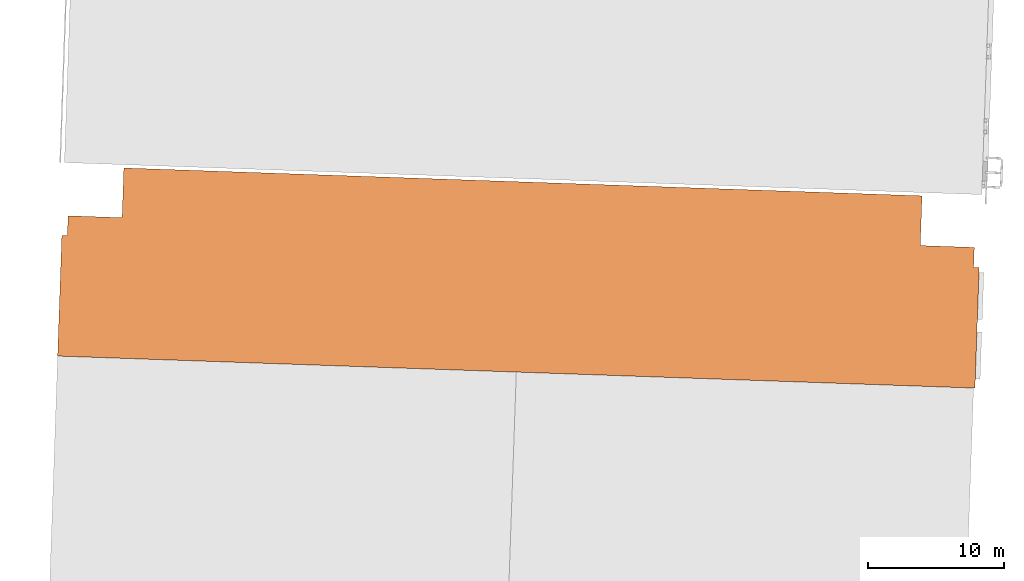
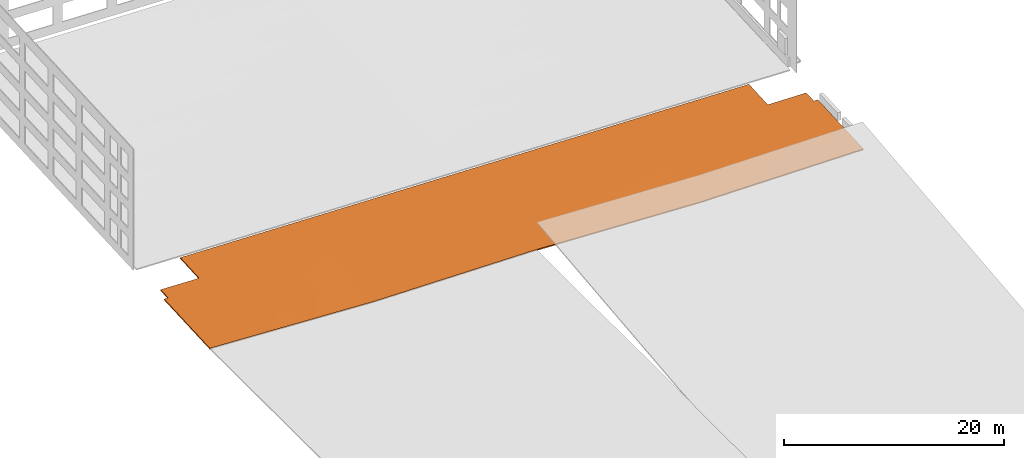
# One storey, part 7 of 7: 1 proxy.
"""IFC2X3 building model written with IfcOpenShell, lengths in feet."""

from ifc_helpers import new_model, entity, si_unit, converted_unit, derived_unit, direction, frame, origin, place, context, subcontext, project, spatial, faceted_brep, source, transform, mapped, material, type_object, type_shapes, element, save


model = new_model("IFC2X3")

# Units and contexts
model_context = context("Model", 3, precision=0.0001, world=origin(), true_north=direction((0.999390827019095, 0.0348994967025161)))
body_context = subcontext(model_context, "Body", "Model", "MODEL_VIEW")
ifc_project = project(units=[converted_unit("LENGTHUNIT", "FOOT", entity("IfcRatioMeasure", 0.3048), si_unit("LENGTHUNIT", "METRE"), dimensions=[1, 0, 0, 0, 0, 0, 0]), converted_unit("AREAUNIT", "SQUARE FOOT", entity("IfcRatioMeasure", 0.09290304), si_unit("AREAUNIT", "SQUARE_METRE"), dimensions=[2, 0, 0, 0, 0, 0, 0]), converted_unit("VOLUMEUNIT", "CUBIC FOOT", entity("IfcRatioMeasure", 0.028316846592), si_unit("VOLUMEUNIT", "CUBIC_METRE"), dimensions=[3, 0, 0, 0, 0, 0, 0]), converted_unit("PLANEANGLEUNIT", "DEGREE", entity("IfcRatioMeasure", 0.0174532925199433), si_unit("PLANEANGLEUNIT", "RADIAN"), dimensions=[0, 0, 0, 0, 0, 0, 0]), si_unit("MASSUNIT", "GRAM", prefix="KILO"), si_unit("TIMEUNIT", "SECOND"), si_unit("FREQUENCYUNIT", "HERTZ"), si_unit("THERMODYNAMICTEMPERATUREUNIT", "DEGREE_CELSIUS"), derived_unit("THERMALTRANSMITTANCEUNIT", [(si_unit("MASSUNIT", "GRAM", prefix="KILO"), 1), (si_unit("THERMODYNAMICTEMPERATUREUNIT", "KELVIN"), -1), (si_unit("TIMEUNIT", "SECOND"), -3)]), derived_unit("VOLUMETRICFLOWRATEUNIT", [(si_unit("LENGTHUNIT", "METRE"), 3), (si_unit("TIMEUNIT", "SECOND"), -1)]), si_unit("ELECTRICCURRENTUNIT", "AMPERE"), si_unit("ELECTRICVOLTAGEUNIT", "VOLT"), si_unit("POWERUNIT", "WATT"), si_unit("FORCEUNIT", "NEWTON"), si_unit("ILLUMINANCEUNIT", "LUX"), si_unit("LUMINOUSFLUXUNIT", "LUMEN"), si_unit("LUMINOUSINTENSITYUNIT", "CANDELA"), derived_unit("USERDEFINED", [(si_unit("MASSUNIT", "GRAM", prefix="KILO"), -1), (si_unit("LENGTHUNIT", "METRE"), -2), (si_unit("TIMEUNIT", "SECOND"), 3), (si_unit("LUMINOUSFLUXUNIT", "LUMEN"), 1)]), derived_unit("LINEARVELOCITYUNIT", [(si_unit("LENGTHUNIT", "METRE"), 1), (si_unit("TIMEUNIT", "SECOND"), -1)]), si_unit("PRESSUREUNIT", "PASCAL"), derived_unit("USERDEFINED", [(si_unit("LENGTHUNIT", "METRE"), -2), (si_unit("MASSUNIT", "GRAM", prefix="KILO"), 1), (si_unit("TIMEUNIT", "SECOND"), -2)])], contexts=[model_context])

# Site, building, storey
site_placement = place(None, frame((892.518771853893, 322.38689265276, 0.00393700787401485), z_axis=(0.0, 0.0, 1.0), x_axis=(0.0348994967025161, 0.999390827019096, 0.0)))
site = spatial("IfcSite", under=ifc_project, at=site_placement, Name="Default", CompositionType="ELEMENT")
building_placement = place(site_placement, origin())
building = spatial("IfcBuilding", under=site, at=building_placement, CompositionType="ELEMENT")
storey_placement = place(building_placement, frame((0.0, 0.0, 567.0)))
storey = spatial("IfcBuildingStorey", under=building, at=storey_placement, Name="Existing Garage - 2nd Level", CompositionType="ELEMENT", Elevation=567.0)

# Proxy
ifc_material = material(Name="Conc Slab")
building_element_proxy_type = type_object("IfcBuildingElementProxyType", Name="URMC Exist Garage A15-G18 2nd Floor", PredefinedType="NOTDEFINED", material=ifc_material)
shared_shape = source(origin(), body_context, "Body", "Brep", [
    faceted_brep([(45.7500000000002, -165.0, -0.416666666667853), (45.0, -165.0, -0.416666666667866), (42.0623199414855, -165.0, -0.493046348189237), (37.5, -165.0, -0.611666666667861), (32.9376800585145, -165.0, -0.730286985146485), (30.0, -165.0, -0.806666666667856), (21.6913902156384, -165.0, -1.02269052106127), (13.3827804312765, -165.0, -1.23871437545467), (0.0, -165.0, -1.58666666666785), (0.0, -165.0, -1.17000000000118), (13.3827804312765, -165.0, -0.822047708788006), (21.6913902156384, -165.0, -0.606023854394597), (30.0, -165.0, -0.390000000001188), (37.4999999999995, -165.0, -0.195000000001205), (45.0, -165.0, 0.0), (45.7500000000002, -165.0, 0.0), (29.0, -220.0, -0.416666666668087), (29.0, -220.0, 0.0), (20.6913898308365, -220.0, 0.0), (12.3827796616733, -220.0, 0.0), (0.0, -220.0, 0.0), (0.0, -220.0, -0.416666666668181), (12.3827796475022, -220.0, -0.416666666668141), (20.691389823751, -220.0, -0.416666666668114), (30.0, -208.845032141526, -0.0790988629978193), (16.5370843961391, -203.597118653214, -0.220703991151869), (29.2499999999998, -219.0, -0.00744545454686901), (29.4999999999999, -219.0, -0.00732727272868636), (29.75, -219.0, -0.0072090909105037), (30.0, -219.0, -0.00709090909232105), (30.4212962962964, -219.0, -0.0068917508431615), (30.8425925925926, -219.0, -0.00669259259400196), (30.0, -205.5, -0.102818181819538), (29.0, -219.0, -0.00756363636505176), (29.0, -219.75, -0.00189090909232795), (29.0, -219.5, -0.00378181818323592), (29.0, -219.25, -0.00567272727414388), (20.7948761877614, -191.005404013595, -0.331768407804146), (30.0, -198.690064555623, -0.151106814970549), (10.0378252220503, -178.448943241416, -0.686738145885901), (20.1935517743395, -178.613535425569, -0.485326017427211), (0.0, -209.845032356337, -0.21602385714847), (0.0, -199.690064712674, -0.432047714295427), (9.71466791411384, -192.499997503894, -0.458709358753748), (0.0, -185.309935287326, -0.737952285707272), (7.77446293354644, -204.767549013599, -0.268053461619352), (0.0, -175.154967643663, -0.953976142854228), (30.0, -192.0, -0.198545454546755), (30.0, -181.845032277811, -0.270553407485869), (30.0, -178.5, -0.294272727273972), (33.7916666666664, -211.777777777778, -0.0435653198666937), (33.7916666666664, -213.222222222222, -0.0359119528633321), (31.2638888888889, -219.0, -0.00649343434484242), (31.6851851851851, -219.0, -0.00629427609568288), (32.1064814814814, -219.0, -0.00609511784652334), (32.5277777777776, -219.0, -0.0058959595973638), (32.9490740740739, -219.0, -0.00569680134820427), (33.3703703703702, -219.0, -0.00549764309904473), (33.7916666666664, -219.0, -0.0052984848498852), (33.7916666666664, -217.555555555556, -0.0129518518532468), (33.7916666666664, -216.111111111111, -0.0206052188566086), (33.7916666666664, -214.666666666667, -0.0282585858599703), (38.4839962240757, -175.781774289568, -0.136205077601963), (34.4211543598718, -180.619101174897, -0.196940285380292), (38.1504626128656, -186.798467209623, -0.107505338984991), (45.0, -177.276017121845, 0.0), (34.313381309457, -191.629013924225, -0.143326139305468), (38.1504626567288, -196.459562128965, -0.0762230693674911), (33.7916666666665, -206.0, -0.0741787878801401), (35.0370370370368, -206.0, -0.0659367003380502), (33.7916666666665, -207.444444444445, -0.0665254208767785), (33.7916666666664, -210.333333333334, -0.0512186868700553), (33.7916666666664, -208.888888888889, -0.058872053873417), (45.0, -191.638008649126, 0.0), (43.7546296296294, -206.0, -0.00824208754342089), (45.0, -206.0, 0.0), (42.5092592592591, -206.0, -0.0164841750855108), (41.2638888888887, -206.0, -0.0247262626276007), (36.2824074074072, -206.0, -0.0576946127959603), (37.5277777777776, -206.0, -0.0494525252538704), (38.7731481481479, -206.0, -0.0412104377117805), (40.0185185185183, -206.0, -0.0329683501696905), (45.7500000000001, -206.0, 0.0), (45.7500000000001, -206.0, -0.416666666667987), (45.0, -206.0, -0.416666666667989), (45.0, -191.638008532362, -0.416666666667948), (45.0, -177.276017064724, -0.416666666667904), (33.7916666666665, -207.444444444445, -0.483192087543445), (33.7916666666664, -208.888888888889, -0.475538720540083), (33.7916666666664, -210.333333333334, -0.467885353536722), (33.7916666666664, -211.777777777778, -0.46023198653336), (30.0, -205.499999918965, -0.519484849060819), (33.7916666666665, -206.0, -0.490845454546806), (37.0103240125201, -176.044531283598, -0.582683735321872), (33.8430920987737, -184.011589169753, -0.606475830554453), (30.0, -178.500000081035, -0.710939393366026), (34.7918977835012, -194.653484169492, -0.538980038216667), (30.0, -198.690064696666, -0.567773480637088), (30.0, -192.0, -0.615212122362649), (40.0185185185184, -206.0, -0.449635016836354), (38.773148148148, -206.0, -0.457877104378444), (37.5277777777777, -206.0, -0.466119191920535), (36.2824074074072, -206.0, -0.474361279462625), (39.3958345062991, -196.218239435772, -0.479670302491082), (42.5092592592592, -206.0, -0.433150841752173), (41.2638888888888, -206.0, -0.441392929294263), (38.1504606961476, -186.798464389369, -0.524172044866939), (30.0, -181.845032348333, -0.687220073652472), (30.8425925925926, -219.0, -0.423359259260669), (43.7546296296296, -206.0, -0.424908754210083), (40.93720002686, -179.294944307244, -0.494844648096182), (35.0370370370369, -206.0, -0.482603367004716), (33.7916666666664, -214.666666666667, -0.444925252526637), (33.7916666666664, -216.111111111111, -0.437271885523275), (33.7916666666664, -217.555555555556, -0.429618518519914), (33.7916666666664, -219.0, -0.421965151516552), (33.3703703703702, -219.0, -0.422164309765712), (32.9490740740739, -219.0, -0.422363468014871), (32.5277777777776, -219.0, -0.422562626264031), (32.1064814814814, -219.0, -0.42276178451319), (31.6851851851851, -219.0, -0.42296094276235), (31.2638888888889, -219.0, -0.423160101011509), (33.7916666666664, -213.222222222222, -0.452578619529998), (30.4212962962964, -219.0, -0.423558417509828), (30.0, -219.0, -0.423757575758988), (29.75, -219.0, -0.423875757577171), (29.4999999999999, -219.0, -0.423993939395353), (29.2499999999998, -219.0, -0.424112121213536), (29.0, -219.0, -0.424230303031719), (30.0, -208.845032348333, -0.495765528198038), (0.0, -185.309935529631, -1.15461894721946), (9.71466872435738, -192.499996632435, -0.875376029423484), (0.0, -199.690064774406, -0.848714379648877), (10.0378253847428, -178.44894299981, -1.10340481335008), (29.0, -219.5, -0.420448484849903), (29.0, -219.75, -0.418557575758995), (29.0, -219.25, -0.422339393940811), (16.5370867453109, -203.597117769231, -0.637370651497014), (7.77446308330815, -204.767549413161, -0.684720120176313), (0.0, -209.845032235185, -0.632690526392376), (20.7948767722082, -191.005405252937, -0.748435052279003), (20.1935519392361, -178.613536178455, -0.901992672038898), (0.0, -175.154967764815, -1.37064280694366)], [[[0, 1, 2, 3, 4, 5, 6, 7, 8, 9, 10, 11, 12, 13, 14, 15]], [[16, 17, 18, 19, 20, 21, 22, 23]], [[18, 24, 25]], [[26, 27, 28, 29, 30, 31, 32, 24, 33]], [[18, 17, 34, 35, 36, 33]], [[37, 25, 38]], [[25, 19, 18]], [[39, 37, 40]], [[19, 41, 20]], [[42, 43, 44]], [[45, 43, 42]], [[33, 24, 18]], [[45, 42, 41]], [[25, 24, 32, 38]], [[39, 40, 10]], [[43, 39, 44]], [[39, 9, 46, 44]], [[37, 43, 25]], [[39, 43, 37]], [[37, 38, 47, 48]], [[12, 11, 10, 40]], [[40, 37, 48]], [[40, 48, 49, 12]], [[45, 19, 25]], [[19, 45, 41]], [[43, 45, 25]], [[9, 39, 10]], [[31, 50, 32]], [[51, 50, 31, 52, 53, 54, 55, 56, 57, 58, 59, 60, 61]], [[62, 63, 64]], [[64, 65, 62]], [[63, 12, 49, 48, 47]], [[64, 66, 67]], [[68, 66, 47]], [[66, 63, 47]], [[66, 68, 69]], [[70, 68, 32, 50, 71, 72]], [[14, 13, 62]], [[68, 47, 38, 32]], [[67, 73, 64]], [[14, 62, 65]], [[66, 69, 67]], [[74, 75, 73, 76]], [[77, 76, 67, 69, 78, 79, 80, 81]], [[73, 67, 76]], [[63, 66, 64]], [[13, 63, 62]], [[64, 73, 65]], [[12, 63, 13]], [[82, 15, 14, 65, 73, 75]], [[15, 82, 83, 0]], [[0, 83, 84, 85, 86, 1]], [[87, 88, 89, 90, 91, 92]], [[93, 94, 95]], [[96, 91, 97, 98]], [[99, 100, 101, 102, 103, 104, 105]], [[4, 3, 2, 93]], [[85, 103, 106]], [[94, 98, 107, 95]], [[90, 108, 91]], [[4, 93, 95]], [[84, 109, 104, 85]], [[93, 110, 106]], [[98, 94, 96]], [[96, 103, 102]], [[102, 111, 92, 96]], [[2, 86, 110]], [[104, 103, 85]], [[85, 106, 110]], [[103, 96, 106]], [[96, 92, 91]], [[112, 113, 114, 115, 116, 117, 118, 119, 120, 121, 108, 90, 122]], [[91, 108, 123, 124, 125, 126, 127, 128, 129]], [[85, 110, 86]], [[95, 5, 4]], [[94, 93, 106]], [[96, 94, 106]], [[2, 110, 93]], [[86, 2, 1]], [[130, 131, 132]], [[7, 133, 8]], [[128, 23, 129]], [[133, 131, 130]], [[134, 135, 16, 23, 128, 136]], [[137, 129, 23]], [[138, 139, 132]], [[137, 140, 97]], [[137, 97, 91, 129]], [[23, 22, 137]], [[22, 21, 139]], [[140, 137, 131]], [[141, 107, 140]], [[131, 138, 132]], [[141, 140, 133]], [[133, 130, 142, 8]], [[6, 5, 141, 7]], [[133, 140, 131]], [[140, 107, 98, 97]], [[141, 5, 95, 107]], [[7, 141, 133]], [[138, 131, 137]], [[139, 138, 22]], [[22, 138, 137]], [[84, 83, 82, 75, 74, 76, 77, 81, 80, 79, 78, 69, 68, 92, 111, 102, 101, 100, 99, 105, 104, 109]], [[71, 50, 51, 61, 60, 59, 58, 115, 114, 113, 112, 122, 90, 89, 88, 87, 92, 68, 70, 72]], [[117, 116, 115, 58, 57, 56, 55, 54, 53, 52, 31, 30, 29, 28, 27, 26, 33, 128, 127, 126, 125, 124, 123, 108, 121, 120, 119, 118]], [[134, 136, 128, 33, 36, 35, 34, 17, 16, 135]], [[9, 8, 142, 130, 132, 139, 21, 20, 41, 42, 44, 46]]]),
    faceted_brep([(0.0, -55.0, -1.17000000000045), (0.0, -55.0, -1.58666666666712), (13.3827804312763, -55.0, -1.23871437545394), (21.6913902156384, -55.0, -1.02269052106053), (30.0, -55.0, -0.806666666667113), (37.5000000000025, -55.0, -0.611666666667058), (45.0, -55.0, -0.416666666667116), (45.7500000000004, -55.0, -0.416666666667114), (45.7500000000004, -55.0, 0.0), (45.0, -55.0, 0.0), (42.0623199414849, -55.0, -0.0763796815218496), (37.4999999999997, -55.0, -0.195000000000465), (32.9376800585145, -55.0, -0.313620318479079), (30.0, -55.0, -0.390000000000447), (21.6913902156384, -55.0, -0.60602385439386), (13.3827804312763, -55.0, -0.822047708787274), (0.0, 0.0, 0.0), (12.3827796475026, 0.0, 0.0), (20.6913898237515, 0.0, 0.0), (29.0, 0.0, 0.0), (29.0, 0.0, -0.416666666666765), (20.6913898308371, 0.0, -0.416666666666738), (12.3827796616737, 0.0, -0.416666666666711), (0.0, 0.0, -0.416666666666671), (45.7500000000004, -14.0, -0.416666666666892), (45.0, -42.7239827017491, -0.41666666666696), (45.0, -28.3619913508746, -0.416666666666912), (45.0, -14.0, -0.416666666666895), (45.7500000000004, -14.0, 0.0), (45.0, -14.0, 0.0), (45.0, -28.3619914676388, 0.0), (45.0, -42.7239829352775, 0.0), (33.7916666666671, -12.5555555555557, -0.0665254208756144), (33.7916666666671, -11.1111111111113, -0.0588720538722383), (33.7916666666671, -9.66666666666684, -0.0512186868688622), (33.7916666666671, -8.22222222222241, -0.0435653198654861), (30.0, -14.5000000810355, -0.102818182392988), (33.7916666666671, -14.0, -0.0741787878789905), (37.0103240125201, -43.9554687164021, -0.166017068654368), (33.843092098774, -35.9884108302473, -0.189809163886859), (30.0, -41.499999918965, -0.294272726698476), (34.7918977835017, -25.3465158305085, -0.122313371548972), (30.0, -21.3099353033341, -0.15110681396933), (30.0, -28.0000001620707, -0.198545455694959), (40.0185185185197, -14.0, -0.0329683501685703), (38.7731481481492, -14.0, -0.0412104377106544), (37.5277777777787, -14.0, -0.0494525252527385), (36.2824074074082, -14.0, -0.0576946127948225), (39.3958345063, -23.7817605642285, -0.0630036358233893), (42.5092592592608, -14.0, -0.0164841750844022), (41.2638888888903, -14.0, -0.0247262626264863), (38.1504606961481, -33.2015356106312, -0.107505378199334), (30.0, -38.1549676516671, -0.270553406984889), (30.8425925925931, -1.0, -0.00669259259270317), (43.7546296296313, -14.0, -0.00824208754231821), (40.9372000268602, -40.7050556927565, -0.0781779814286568), (35.0370370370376, -14.0, -0.0659367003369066), (33.7916666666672, -5.33333333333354, -0.0282585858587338), (33.7916666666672, -3.88888888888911, -0.0206052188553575), (33.7916666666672, -2.44444444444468, -0.0129518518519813), (33.7916666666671, -1.0, -0.00529848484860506), (33.3703703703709, -1.0, -0.00549764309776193), (32.9490740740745, -1.0, -0.00569680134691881), (32.5277777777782, -1.0, -0.00589595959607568), (32.1064814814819, -1.0, -0.00609511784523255), (31.6851851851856, -1.0, -0.00629427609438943), (31.2638888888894, -1.0, -0.0064934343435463), (33.7916666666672, -6.77777777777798, -0.0359119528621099), (30.4212962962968, -1.0, -0.00689175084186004), (30.0, -1.0, -0.00709090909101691), (29.7500000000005, -1.0, -0.0072090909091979), (29.5000000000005, -1.0, -0.00732727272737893), (29.2500000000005, -1.0, -0.00744545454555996), (29.0, -1.0, -0.00756363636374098), (30.0, -11.1549676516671, -0.0790988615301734), (0.0, -34.6900644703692, -0.737952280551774), (9.71466872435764, -27.5000033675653, -0.458709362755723), (0.0, -20.3099352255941, -0.432047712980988), (10.0378253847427, -41.5510570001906, -0.686738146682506), (29.0, -0.50000000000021, -0.00378181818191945), (29.0, -0.250000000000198, -0.00189090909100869), (29.0, -0.750000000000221, -0.00567272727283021), (16.5370867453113, -16.4028822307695, -0.220703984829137), (7.77446308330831, -15.2324505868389, -0.268053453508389), (0.0, -10.1549677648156, -0.216023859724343), (20.7948767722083, -28.9945947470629, -0.331768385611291), (20.1935519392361, -41.3864638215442, -0.485326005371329), (0.0, -44.8450322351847, -0.953976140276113), (0.0, -10.1549676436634, -0.632690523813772), (0.0, -20.3099352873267, -0.848714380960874), (0.0, -34.6900647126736, -1.15461895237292), (0.0, -44.8450323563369, -1.37064280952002), (30.0, -11.1549678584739, -0.495765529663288), (16.5370843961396, -16.4028813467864, -0.637370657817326), (29.2500000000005, -1.0, -0.424112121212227), (29.5000000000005, -1.0, -0.423993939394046), (29.7500000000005, -1.0, -0.423875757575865), (30.0, -1.0, -0.423757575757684), (30.4212962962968, -1.0, -0.423558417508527), (30.8425925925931, -1.0, -0.42335925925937), (30.0, -14.5000000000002, -0.519484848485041), (29.0, -1.0, -0.424230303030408), (29.0, -0.250000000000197, -0.418557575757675), (29.0, -0.500000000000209, -0.420448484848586), (29.0, -0.750000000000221, -0.422339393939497), (20.7948761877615, -28.9945959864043, -0.748435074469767), (30.0, -21.3099354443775, -0.567773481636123), (10.0378252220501, -41.5510567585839, -1.10340481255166), (20.1935517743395, -41.3864645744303, -0.901992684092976), (9.7146679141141, -27.5000024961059, -0.87537602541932), (7.77446293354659, -15.2324509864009, -0.684720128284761), (30.0, -28.0, -0.615212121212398), (30.0, -38.1549677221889, -0.687220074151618), (30.0, -41.5000000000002, -0.710939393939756), (33.7916666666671, -8.22222222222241, -0.460231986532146), (33.7916666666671, -6.77777777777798, -0.452578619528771), (31.2638888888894, -1.0, -0.423160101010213), (31.6851851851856, -1.0, -0.422960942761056), (32.1064814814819, -1.0, -0.422761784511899), (32.5277777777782, -1.0, -0.422562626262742), (32.9490740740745, -1.0, -0.422363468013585), (33.3703703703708, -1.0, -0.422164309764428), (33.7916666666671, -1.0, -0.421965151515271), (33.7916666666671, -2.44444444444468, -0.429618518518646), (33.7916666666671, -3.88888888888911, -0.437271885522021), (33.7916666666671, -5.33333333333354, -0.444925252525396), (38.4839962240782, -44.2182257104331, -0.552871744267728), (34.4211543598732, -39.3808988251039, -0.613606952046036), (38.1504626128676, -33.2015327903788, -0.524172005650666), (34.3133813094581, -28.3709860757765, -0.559992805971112), (38.1504626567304, -23.5404378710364, -0.492889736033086), (33.7916666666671, -14.0, -0.490845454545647), (35.0370370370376, -14.0, -0.48260336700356), (33.7916666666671, -12.5555555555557, -0.483192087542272), (33.7916666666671, -9.66666666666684, -0.467885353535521), (33.7916666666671, -11.1111111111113, -0.475538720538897), (43.754629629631, -14.0, -0.424908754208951), (42.5092592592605, -14.0, -0.433150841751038), (41.2638888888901, -14.0, -0.441392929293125), (36.2824074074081, -14.0, -0.474361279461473), (37.5277777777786, -14.0, -0.466119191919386), (38.7731481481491, -14.0, -0.457877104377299), (40.0185185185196, -14.0, -0.449635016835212)], [[[0, 1, 2, 3, 4, 5, 6, 7, 8, 9, 10, 11, 12, 13, 14, 15]], [[16, 17, 18, 19, 20, 21, 22, 23]], [[24, 7, 6, 25, 26, 27]], [[7, 24, 28, 8]], [[8, 28, 29, 30, 31, 9]], [[32, 33, 34, 35, 36, 37]], [[38, 39, 40]], [[41, 36, 42, 43]], [[44, 45, 46, 47, 48, 49, 50]], [[12, 11, 10, 38]], [[30, 48, 51]], [[39, 43, 52, 40]], [[35, 53, 36]], [[12, 38, 40]], [[29, 54, 49, 30]], [[38, 55, 51]], [[43, 39, 41]], [[41, 48, 47]], [[47, 56, 37, 41]], [[10, 31, 55]], [[49, 48, 30]], [[30, 51, 55]], [[48, 41, 51]], [[41, 37, 36]], [[57, 58, 59, 60, 61, 62, 63, 64, 65, 66, 53, 35, 67]], [[36, 53, 68, 69, 70, 71, 72, 73, 74]], [[30, 55, 31]], [[40, 13, 12]], [[39, 38, 51]], [[41, 39, 51]], [[10, 55, 38]], [[31, 10, 9]], [[75, 76, 77]], [[15, 78, 0]], [[73, 18, 74]], [[78, 76, 75]], [[79, 80, 19, 18, 73, 81]], [[82, 74, 18]], [[83, 84, 77]], [[82, 85, 42]], [[82, 42, 36, 74]], [[18, 17, 82]], [[17, 16, 84]], [[85, 82, 76]], [[86, 52, 85]], [[76, 83, 77]], [[86, 85, 78]], [[78, 75, 87, 0]], [[14, 13, 86, 15]], [[78, 85, 76]], [[85, 52, 43, 42]], [[86, 13, 40, 52]], [[15, 86, 78]], [[83, 76, 82]], [[84, 83, 17]], [[17, 83, 82]], [[23, 88, 89, 90, 91, 1, 0, 87, 75, 77, 84, 16]], [[21, 92, 93]], [[94, 95, 96, 97, 98, 99, 100, 92, 101]], [[21, 20, 102, 103, 104, 101]], [[105, 93, 106]], [[93, 22, 21]], [[107, 105, 108]], [[22, 88, 23]], [[89, 109, 90]], [[110, 109, 89]], [[101, 92, 21]], [[110, 89, 88]], [[93, 92, 100, 106]], [[107, 108, 2]], [[109, 107, 90]], [[107, 1, 91, 90]], [[105, 109, 93]], [[107, 109, 105]], [[105, 106, 111, 112]], [[4, 3, 2, 108]], [[108, 105, 112]], [[108, 112, 113, 4]], [[110, 22, 93]], [[22, 110, 88]], [[109, 110, 93]], [[1, 107, 2]], [[99, 114, 100]], [[115, 114, 99, 116, 117, 118, 119, 120, 121, 122, 123, 124, 125]], [[126, 127, 128]], [[128, 25, 126]], [[127, 4, 113, 112, 111]], [[128, 129, 130]], [[131, 129, 111]], [[129, 127, 111]], [[129, 131, 132]], [[133, 131, 100, 114, 134, 135]], [[6, 5, 126]], [[131, 111, 106, 100]], [[130, 26, 128]], [[6, 126, 25]], [[129, 132, 130]], [[136, 27, 26, 137]], [[138, 137, 130, 132, 139, 140, 141, 142]], [[26, 130, 137]], [[127, 129, 128]], [[5, 127, 126]], [[128, 26, 25]], [[4, 127, 5]], [[44, 50, 49, 54, 29, 28, 24, 27, 136, 137, 138, 142, 141, 140, 139, 132, 131, 37, 56, 47, 46, 45]], [[59, 58, 57, 67, 35, 34, 33, 32, 37, 131, 133, 135, 134, 114, 115, 125, 124, 123, 122, 60]], [[102, 20, 19, 80, 79, 81, 73, 101, 104, 103]], [[53, 66, 65, 64, 63, 62, 61, 60, 122, 121, 120, 119, 118, 117, 116, 99, 98, 97, 96, 95, 94, 101, 73, 72, 71, 70, 69, 68]]]),
    faceted_brep([(29.0, -220.0, 0.0), (0.0, -220.0, 0.0), (0.0, -220.333333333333, 0.0), (29.0, -220.333333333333, 0.0), (29.0, -220.0, -0.416666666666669), (29.0, -220.333333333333, -0.416666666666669), (0.0, -220.333333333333, -0.416666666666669), (0.0, -220.0, -0.416666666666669)], [[[0, 1, 2, 3]], [[4, 5, 6, 7]], [[0, 3, 5, 4]], [[3, 2, 6, 5]], [[2, 1, 7, 6]], [[1, 0, 4, 7]]]),
    faceted_brep([(0.0, -165.0, -1.17000000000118), (0.0, -165.0, -1.58666666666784), (9.46064134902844, -165.0, -1.34068999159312), (18.9212826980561, -165.0, -1.0947133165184), (30.0, -165.0, -0.806666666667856), (37.1659738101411, -165.0, -0.620351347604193), (41.0829869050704, -165.0, -0.51850900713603), (45.0, -165.0, -0.416666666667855), (45.7500000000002, -165.0, -0.416666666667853), (45.7500000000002, -165.0, 0.0), (45.0, -165.0, 0.0), (37.8340261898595, -165.0, -0.186315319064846), (33.9170130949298, -165.0, -0.288157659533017), (30.0, -165.0, -0.390000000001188), (20.5393586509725, -165.0, -0.635976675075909), (11.0787173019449, -165.0, -0.881953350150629), (30.0, -110.0, -0.526666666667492), (18.921282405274, -110.0, -0.607910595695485), (9.46064120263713, -110.0, -0.677288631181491), (0.0, -110.0, -0.746666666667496), (0.0, -110.0, -0.330000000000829), (11.0787175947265, -110.0, -0.248756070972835), (20.5393587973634, -110.0, -0.17937803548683), (30.0, -110.0, -0.110000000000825), (37.16597356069, -110.0, -0.0574495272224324), (41.0829867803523, -110.0, -0.0287247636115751), (45.0, -110.0, 0.0), (45.7500000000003, -110.0, 0.0), (45.7500000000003, -110.0, -0.41666666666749), (45.0, -110.0, -0.41666666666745), (37.8340264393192, -110.0, -0.469217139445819), (33.9170132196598, -110.0, -0.497941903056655), (0.0, -137.5, -1.16666666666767), (30.0, -130.310981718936, -0.630068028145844), (15.0000015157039, -137.500002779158, -0.916666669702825), (30.0, -144.689018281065, -0.703265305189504), (30.0, -136.275236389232, -0.660431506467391), (30.0, -150.637618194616, -0.733549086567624), (35.238920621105, -129.41370506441, -0.552562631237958), (40.1294691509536, -126.164082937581, -0.479103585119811), (45.0, -124.36238162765, -0.416666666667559), (45.0, -138.724762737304, -0.416666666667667), (39.1244807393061, -144.011721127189, -0.527577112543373), (33.9855774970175, -149.287335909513, -0.644304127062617), (45.0, -136.275236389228, 0.0), (45.0, -150.637618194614, 0.0), (39.7610793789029, -129.413705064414, -0.0729374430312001), (34.8705308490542, -126.164082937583, -0.129852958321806), (30.0, -124.362381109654, -0.18311757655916), (30.0, -137.5, -0.250000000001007), (30.0, -138.724762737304, -0.256235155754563), (35.8755192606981, -144.011721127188, -0.172240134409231), (41.0144225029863, -149.287335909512, -0.0823707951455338), (0.0, -130.310981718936, -0.640204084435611), (14.9999984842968, -137.500002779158, -0.500000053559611), (0.0, -144.689018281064, -0.859795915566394)], [[[0, 1, 2, 3, 4, 5, 6, 7, 8, 9, 10, 11, 12, 13, 14, 15]], [[16, 17, 18, 19, 20, 21, 22, 23, 24, 25, 26, 27, 28, 29, 30, 31]], [[2, 1, 32]], [[17, 16, 33]], [[34, 35, 3]], [[34, 17, 33]], [[34, 33, 36, 35]], [[32, 18, 34]], [[3, 35, 37, 4]], [[2, 32, 34]], [[34, 3, 2]], [[34, 18, 17]], [[32, 19, 18]], [[38, 16, 31, 30]], [[39, 29, 40, 41]], [[5, 42, 6]], [[5, 43, 42]], [[43, 4, 37, 35, 36]], [[38, 39, 42]], [[41, 6, 42]], [[41, 7, 6]], [[42, 43, 38]], [[4, 43, 5]], [[38, 43, 36]], [[39, 38, 30]], [[29, 39, 30]], [[41, 42, 39]], [[38, 36, 33, 16]], [[8, 7, 41, 40, 29, 28]], [[8, 28, 27, 9]], [[9, 27, 26, 44, 45, 10]], [[46, 26, 25, 24]], [[47, 23, 48, 49, 50]], [[11, 51, 12]], [[11, 52, 51]], [[52, 10, 45, 44]], [[46, 47, 51]], [[50, 12, 51]], [[50, 49, 14, 13, 12]], [[51, 52, 46]], [[10, 52, 11]], [[46, 52, 44]], [[47, 46, 24]], [[23, 47, 24]], [[50, 51, 47]], [[26, 46, 44]], [[21, 20, 53]], [[54, 55, 15]], [[54, 21, 53]], [[55, 54, 53]], [[49, 22, 54]], [[55, 0, 15]], [[14, 49, 54]], [[54, 15, 14]], [[54, 22, 21]], [[22, 49, 48, 23]], [[19, 32, 1, 0, 55, 53, 20]]]),
    faceted_brep([(29.0, 0.0, 0.0), (29.0, 0.3333333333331, 0.0), (0.0, 0.333333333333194, 0.0), (0.0, 0.0, 0.0), (29.0, 0.0, -0.416666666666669), (0.0, 0.0, -0.416666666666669), (0.0, 0.333333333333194, -0.416666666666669), (29.0, 0.3333333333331, -0.416666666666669)], [[[0, 1, 2, 3]], [[4, 5, 6, 7]], [[1, 0, 4, 7]], [[2, 1, 7, 6]], [[3, 2, 6, 5]], [[0, 3, 5, 4]]]),
    faceted_brep([(30.0, -55.0, -0.806666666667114), (20.5393586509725, -55.0, -1.05264334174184), (11.0787173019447, -55.0, -1.29862001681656), (0.0, -55.0, -1.58666666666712), (0.0, -55.0, -1.17000000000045), (9.46064134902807, -55.0, -0.924023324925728), (18.9212826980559, -55.0, -0.678046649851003), (30.0, -55.0, -0.390000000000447), (37.1659738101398, -55.0, -0.203684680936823), (41.0829869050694, -55.0, -0.101842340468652), (45.0, -55.0, 0.0), (45.7500000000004, -55.0, 0.0), (45.7500000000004, -55.0, -0.416666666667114), (45.0, -55.0, -0.416666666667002), (37.8340261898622, -55.0, -0.602981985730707), (33.9170130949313, -55.0, -0.70482432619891), (0.0, -110.0, -0.330000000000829), (0.0, -110.0, -0.746666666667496), (11.0787175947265, -110.0, -0.665422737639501), (20.5393587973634, -110.0, -0.596044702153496), (30.0, -110.0, -0.526666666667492), (37.1659735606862, -110.0, -0.474116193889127), (41.082986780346, -110.0, -0.445391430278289), (45.0, -110.0, -0.416666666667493), (45.7500000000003, -110.0, -0.41666666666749), (45.7500000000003, -110.0, 0.0), (45.0, -110.0, 0.0), (37.8340264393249, -110.0, -0.0525504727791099), (33.9170132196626, -110.0, -0.0812752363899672), (30.0, -110.0, -0.110000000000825), (18.921282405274, -110.0, -0.191243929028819), (9.46064120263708, -110.0, -0.260621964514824), (45.0, -81.2752372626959, 0.0), (45.0, -95.6376188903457, 0.0), (45.0, -83.7247636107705, -0.416666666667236), (45.0, -69.3623818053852, -0.416666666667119), (39.7610793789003, -90.5862949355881, -0.4896041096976), (34.8705308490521, -93.835917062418, -0.546519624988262), (30.0, -95.6376183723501, -0.599784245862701), (30.0, -82.5, -0.666666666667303), (30.0, -81.2752372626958, -0.672901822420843), (35.875519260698, -75.9882788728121, -0.588906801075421), (41.0144225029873, -70.7126640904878, -0.499037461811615), (0.0, -89.6890182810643, -1.05687075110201), (14.9999984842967, -82.4999972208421, -0.916666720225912), (0.0, -75.3109817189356, -1.2764625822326), (0.0, -82.4999999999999, -0.750000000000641), (30.0, -89.6890182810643, -0.213401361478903), (15.0000015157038, -82.4999972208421, -0.500000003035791), (30.0, -75.3109817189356, -0.286598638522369), (30.0, -83.724763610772, -0.24376483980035), (30.0, -69.362381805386, -0.316882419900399), (35.2389206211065, -90.5862949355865, -0.135895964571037), (40.1294691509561, -93.8359170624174, -0.0624369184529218), (39.1244807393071, -75.9882788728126, -0.110910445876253), (33.9855774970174, -70.7126640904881, -0.227637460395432)], [[[0, 1, 2, 3, 4, 5, 6, 7, 8, 9, 10, 11, 12, 13, 14, 15]], [[16, 17, 18, 19, 20, 21, 22, 23, 24, 25, 26, 27, 28, 29, 30, 31]], [[25, 11, 10, 32, 33, 26]], [[11, 25, 24, 12]], [[12, 24, 23, 34, 35, 13]], [[36, 23, 22, 21]], [[37, 20, 38, 39, 40]], [[14, 41, 15]], [[14, 42, 41]], [[42, 13, 35, 34]], [[36, 37, 41]], [[40, 15, 41]], [[40, 39, 1, 0, 15]], [[41, 42, 36]], [[13, 42, 14]], [[36, 42, 34]], [[37, 36, 21]], [[20, 37, 21]], [[40, 41, 37]], [[23, 36, 34]], [[18, 17, 43]], [[44, 45, 2]], [[44, 18, 43]], [[45, 44, 43]], [[39, 19, 44]], [[45, 3, 2]], [[1, 39, 44]], [[44, 2, 1]], [[44, 19, 18]], [[19, 39, 38, 20]], [[4, 3, 45, 43, 17, 16, 46]], [[5, 4, 46]], [[30, 29, 47]], [[48, 49, 6]], [[48, 30, 47]], [[48, 47, 50, 49]], [[46, 31, 48]], [[6, 49, 51, 7]], [[5, 46, 48]], [[48, 6, 5]], [[48, 31, 30]], [[46, 16, 31]], [[52, 29, 28, 27]], [[53, 26, 33, 32]], [[8, 54, 9]], [[8, 55, 54]], [[55, 7, 51, 49, 50]], [[52, 53, 54]], [[32, 9, 54]], [[32, 10, 9]], [[54, 55, 52]], [[7, 55, 8]], [[52, 55, 50]], [[53, 52, 27]], [[26, 53, 27]], [[32, 54, 53]], [[52, 50, 47, 29]]]),
])
type_shapes(building_element_proxy_type, [shared_shape])
proxy_placement = place(storey_placement, frame((57.9272542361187, 456.76395347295, 0.0)))
element("IfcBuildingElementProxy", 1, at=proxy_placement, inside=storey, type_object=building_element_proxy_type, material=ifc_material, Name="URMC Exist Garage A15-G18 2nd Floor:URMC Exist Garage A15-G18 2nd Floor", ObjectType="URMC Exist Garage A15-G18 2nd Floor", context=body_context, shape_type="MappedRepresentation", body=[
    mapped(shared_shape, transform((0.0, 0.0, 0.0), scale=1.0)),
])

save(model, "model.ifc")
